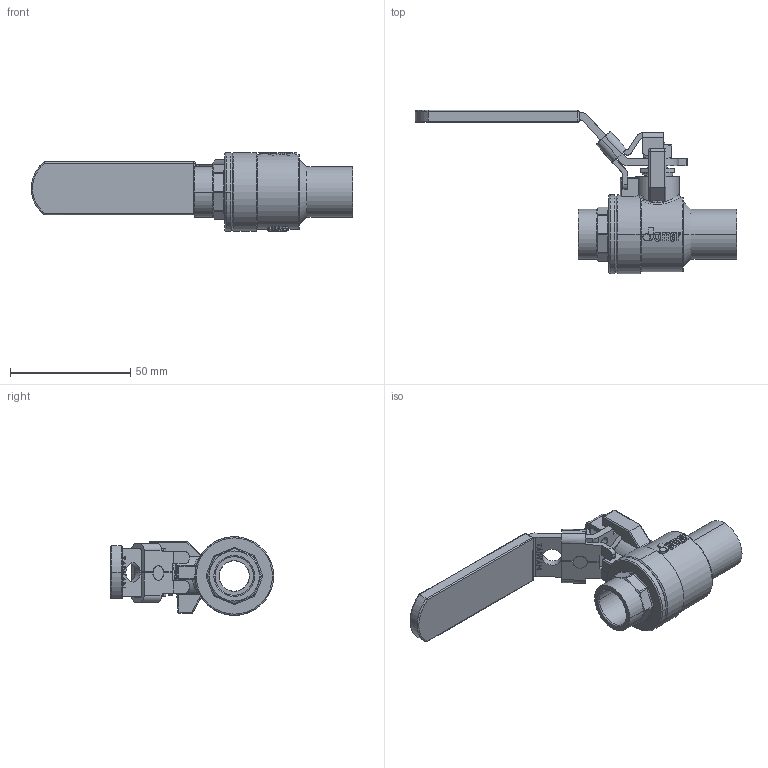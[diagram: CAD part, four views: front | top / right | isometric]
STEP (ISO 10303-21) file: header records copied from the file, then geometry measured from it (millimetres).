
FILE_DESCRIPTION (( 'STEP AP203' ), '1' );
FILE_NAME ('ABL753-有掛鎖-0.5''''JOMAR球閥體-CxC組合.STEP', '2025-12-15T08:28:17', ( '' ), ( '' ), 'SwSTEP 2.0', 'SolidWorks 2018', '' );
FILE_SCHEMA (( 'CONFIG_CONTROL_DESIGN' ));
Length unit declared in the file: millimetre
Products named in the file (14): EBL213; DN15-CBL743-LATCH LOCK HANDLE 組合; TBL163-無鑽孔; DN15-掛鎖; BBL713A-0.5''''JOMAR球閥CxC帽蓋-無鉛-端面無插溝; EBL203B; DN8 & DN15-CBL743-白色膠套-T&G-200CSSG-LH; BBL713-0.5''''JOMAR球閥體-CxC-無鉛-端面無插溝; ABL753-有掛鎖-0.5''''JOMAR球閥體-CxC組合; RBL263; DN15-CBL211э; GBL211; NBL262; EBL203A
Assembly tree (14 placements, depth 3):
  ABL753-有掛鎖-0.5''''JOMAR球閥體-CxC組合
    BBL713-0.5''''JOMAR球閥體-CxC-無鉛-端面無插溝
    EBL203A
    EBL203B
    GBL211
    RBL263
    TBL163-無鑽孔
    BBL713A-0.5''''JOMAR球閥CxC帽蓋-無鉛-端面無插溝
    EBL213  x2
    NBL262
    DN15-CBL743-LATCH LOCK HANDLE 組合
      DN15-CBL211э
      DN15-掛鎖
    DN8 & DN15-CBL743-白色膠套-T&G-200CSSG-LH
Bounding box: 133.55 x 67.86 x 32.7 mm (x, y, z)
Volume: 40577.2 mm3; surface area: 36447.4 mm2
Topology: 13 solids, 13 shells, 2318 faces, 6215 edges, 4097 vertices
Faces by surface type: plane 1244, bspline 677, cylinder 287, cone 64, torus 34, sphere 12
Entity records: 119793 total; most frequent: CARTESIAN_POINT 65811, ORIENTED_EDGE 12354, DIRECTION 8250, EDGE_CURVE 6177, VERTEX_POINT 4079, LINE 3876, VECTOR 3876, EDGE_LOOP 2516
